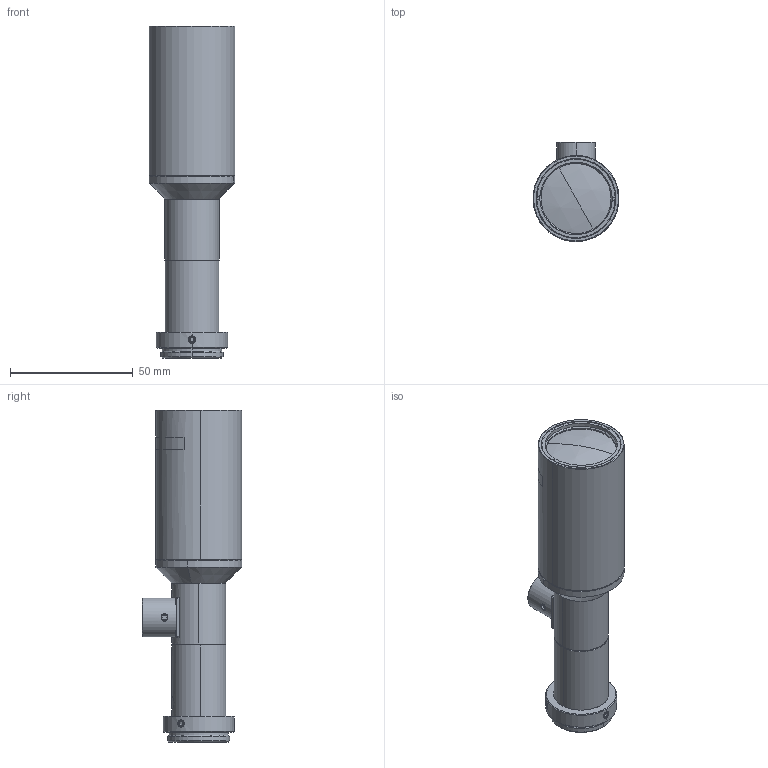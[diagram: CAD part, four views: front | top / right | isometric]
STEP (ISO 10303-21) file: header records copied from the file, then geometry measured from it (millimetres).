
FILE_DESCRIPTION (( 'STEP AP214' ), '1' );
FILE_NAME ('TEC-M05110MPC_210308.STEP', '2021-03-11T06:00:17', ( '' ), ( '' ), 'SwSTEP 2.0', 'SolidWorks 2019', '' );
FILE_SCHEMA (( 'AUTOMOTIVE_DESIGN' ));
Length unit declared in the file: millimetre
Products named in the file (1): TEC-M05110MPC_210308
Bounding box: 34.96 x 40.48 x 135.21 mm (x, y, z)
Volume: 44121.6 mm3; surface area: 33608.1 mm2
Topology: 18 solids, 18 shells, 587 faces, 1342 edges, 834 vertices
Faces by surface type: plane 225, cylinder 175, cone 151, torus 16, sphere 12, bspline 8
Entity records: 24773 total; most frequent: CARTESIAN_POINT 4492, DIRECTION 3056, ORIENTED_EDGE 2668, EDGE_CURVE 1334, AXIS2_PLACEMENT_3D 1235, VERTEX_POINT 834, EDGE_LOOP 672, CIRCLE 655
